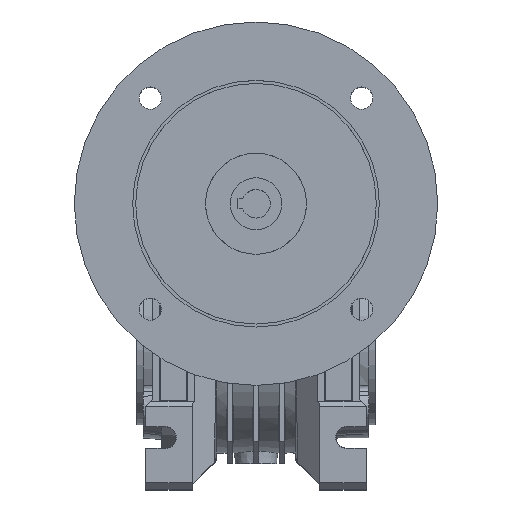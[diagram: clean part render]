
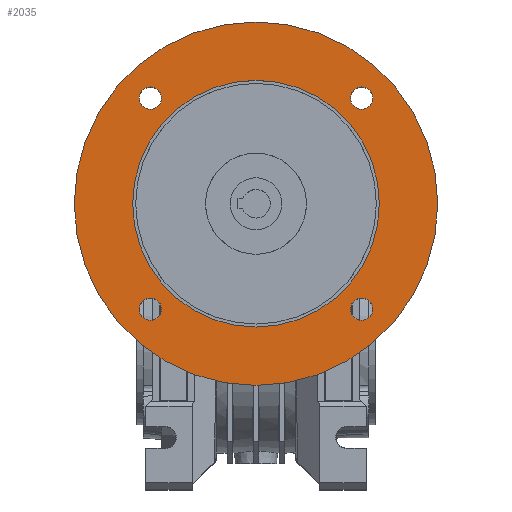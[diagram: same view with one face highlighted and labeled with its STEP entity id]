
A CAD part, top view. The second image highlights one B-rep face of the part: STEP entity #2035.
In plain terms, the highlighted planar face has unit normal (0, 0, 1).
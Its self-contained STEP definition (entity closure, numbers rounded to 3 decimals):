
#2035 = ADVANCED_FACE( 'NONE', ( #4222, #4223, #4224, #4225, #4226, #4227 ), #4228, .T. );
#4222 = FACE_OUTER_BOUND( '', #6854, .T. );
#4223 = FACE_BOUND( '', #6855, .T. );
#4224 = FACE_BOUND( '', #6856, .T. );
#4225 = FACE_BOUND( '', #6857, .T. );
#4226 = FACE_BOUND( '', #6858, .T. );
#4227 = FACE_BOUND( '', #6859, .T. );
#4228 = PLANE( '', #6860 );
#6854 = EDGE_LOOP( '', ( #13204 ) );
#6855 = EDGE_LOOP( '', ( #13205 ) );
#6856 = EDGE_LOOP( '', ( #13206 ) );
#6857 = EDGE_LOOP( '', ( #13207 ) );
#6858 = EDGE_LOOP( '', ( #13208 ) );
#6859 = EDGE_LOOP( '', ( #13209 ) );
#6860 = AXIS2_PLACEMENT_3D( '', #13210, #13211, #13212 );
#13204 = ORIENTED_EDGE( '', *, *, #16126, .T. );
#13205 = ORIENTED_EDGE( '', *, *, #16215, .T. );
#13206 = ORIENTED_EDGE( '', *, *, #15901, .T. );
#13207 = ORIENTED_EDGE( '', *, *, #15857, .T. );
#13208 = ORIENTED_EDGE( '', *, *, #16479, .T. );
#13209 = ORIENTED_EDGE( '', *, *, #16377, .T. );
#13210 = CARTESIAN_POINT( '', ( 0., -72., 16. ) );
#13211 = DIRECTION( '', ( 0., 0., 1. ) );
#13212 = DIRECTION( '', ( -1., 0., 0. ) );
#15857 = EDGE_CURVE( 'NONE', #19707, #19707, #19708, .F. );
#15901 = EDGE_CURVE( 'NONE', #19772, #19772, #19773, .F. );
#16126 = EDGE_CURVE( 'NONE', #20058, #20058, #20059, .T. );
#16215 = EDGE_CURVE( 'NONE', #20165, #20165, #20166, .F. );
#16377 = EDGE_CURVE( 'NONE', #20352, #20352, #20353, .F. );
#16479 = EDGE_CURVE( 'NONE', #20462, #20462, #20463, .F. );
#19707 = VERTEX_POINT( '', #27072 );
#19708 = CIRCLE( '', #27073, 4.296 );
#19772 = VERTEX_POINT( '', #27174 );
#19773 = CIRCLE( '', #27175, 4.296 );
#20058 = VERTEX_POINT( '', #27630 );
#20059 = CIRCLE( '', #27631, 69.974 );
#20165 = VERTEX_POINT( '', #27793 );
#20166 = CIRCLE( '', #27794, 4.296 );
#20352 = VERTEX_POINT( '', #28129 );
#20353 = CIRCLE( '', #28130, 47.5 );
#20462 = VERTEX_POINT( '', #28281 );
#20463 = CIRCLE( '', #28282, 4.296 );
#27072 = CARTESIAN_POINT( '', ( -44.955, -40.659, 16. ) );
#27073 = AXIS2_PLACEMENT_3D( '', #30396, #30397, #30398 );
#27174 = CARTESIAN_POINT( '', ( -44.955, 40.659, 16. ) );
#27175 = AXIS2_PLACEMENT_3D( '', #30442, #30443, #30444 );
#27630 = CARTESIAN_POINT( '', ( -69.974, 0., 16. ) );
#27631 = AXIS2_PLACEMENT_3D( '', #30650, #30651, #30652 );
#27793 = CARTESIAN_POINT( '', ( 36.363, -40.659, 16. ) );
#27794 = AXIS2_PLACEMENT_3D( '', #30721, #30722, #30723 );
#28129 = CARTESIAN_POINT( '', ( -47.5, 0., 16. ) );
#28130 = AXIS2_PLACEMENT_3D( '', #30848, #30849, #30850 );
#28281 = CARTESIAN_POINT( '', ( 36.363, 40.659, 16. ) );
#28282 = AXIS2_PLACEMENT_3D( '', #30911, #30912, #30913 );
#30396 = CARTESIAN_POINT( '', ( -40.659, -40.659, 16. ) );
#30397 = DIRECTION( '', ( 0., 0., 1. ) );
#30398 = DIRECTION( '', ( -1., 0., 0. ) );
#30442 = CARTESIAN_POINT( '', ( -40.659, 40.659, 16. ) );
#30443 = DIRECTION( '', ( 0., 0., 1. ) );
#30444 = DIRECTION( '', ( -1., 0., 0. ) );
#30650 = CARTESIAN_POINT( '', ( 0., 0., 16. ) );
#30651 = DIRECTION( '', ( 0., 0., 1. ) );
#30652 = DIRECTION( '', ( -1., 0., 0. ) );
#30721 = CARTESIAN_POINT( '', ( 40.659, -40.659, 16. ) );
#30722 = DIRECTION( '', ( 0., 0., 1. ) );
#30723 = DIRECTION( '', ( -1., 0., 0. ) );
#30848 = CARTESIAN_POINT( '', ( 0., 0., 16. ) );
#30849 = DIRECTION( '', ( 0., 0., 1. ) );
#30850 = DIRECTION( '', ( -1., 0., 0. ) );
#30911 = CARTESIAN_POINT( '', ( 40.659, 40.659, 16. ) );
#30912 = DIRECTION( '', ( 0., 0., 1. ) );
#30913 = DIRECTION( '', ( -1., 0., 0. ) );
